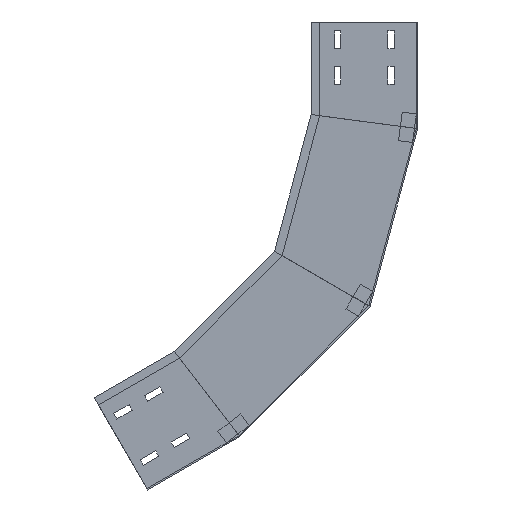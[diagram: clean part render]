
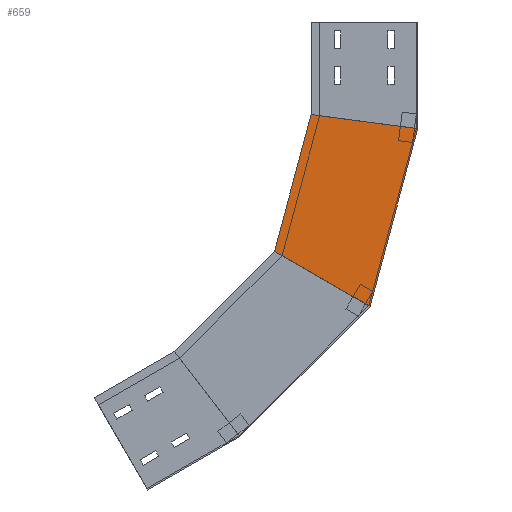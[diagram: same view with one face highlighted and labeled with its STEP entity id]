
A CAD part, left-side view. The second image highlights one B-rep face of the part: STEP entity #659.
In plain terms, the highlighted planar face has unit normal (-1, 0, 0) as drawn and (1, 0, 0) by its records, which use the part's own axes.
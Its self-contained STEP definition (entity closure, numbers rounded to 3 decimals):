
#4 = DIRECTION ( 'NONE',  ( 0., -0.609, -0.793 ) ) ;
#170 = VECTOR ( 'NONE', #489, 1000. ) ;
#178 = CARTESIAN_POINT ( 'NONE',  ( 0., 270.755, -556.495 ) ) ;
#193 = LINE ( 'NONE', #564, #2229 ) ;
#223 = DIRECTION ( 'NONE',  ( -1., 0., 0. ) ) ;
#230 = CARTESIAN_POINT ( 'NONE',  ( 0., 250.175, -583.315 ) ) ;
#304 = LINE ( 'NONE', #1681, #170 ) ;
#364 = EDGE_CURVE ( 'NONE', #1676, #2125, #1323, .T. ) ;
#470 = DIRECTION ( 'NONE',  ( 0., 0.707, -0.707 ) ) ;
#489 = DIRECTION ( 'NONE',  ( 0., -0.866, -0.5 ) ) ;
#564 = CARTESIAN_POINT ( 'NONE',  ( 0., 173.1, -294.109 ) ) ;
#573 = VERTEX_POINT ( 'NONE', #784 ) ;
#659 = ADVANCED_FACE ( 'NONE', ( #2120 ), #1276, .F. ) ;
#737 = CARTESIAN_POINT ( 'NONE',  ( 0., 67.034, -400.175 ) ) ;
#784 = CARTESIAN_POINT ( 'NONE',  ( 0., 201.52, -322.529 ) ) ;
#933 = EDGE_LOOP ( 'NONE', ( #1091, #1077, #2093, #1105 ) ) ;
#1049 = CARTESIAN_POINT ( 'NONE',  ( 0., 342.277, -463.286 ) ) ;
#1077 = ORIENTED_EDGE ( 'NONE', *, *, #1568, .T. ) ;
#1091 = ORIENTED_EDGE ( 'NONE', *, *, #2160, .F. ) ;
#1105 = ORIENTED_EDGE ( 'NONE', *, *, #1716, .F. ) ;
#1166 = VECTOR ( 'NONE', #470, 1000. ) ;
#1174 = VERTEX_POINT ( 'NONE', #1049 ) ;
#1265 = DIRECTION ( 'NONE',  ( 0., 0., 1. ) ) ;
#1276 = PLANE ( 'NONE',  #1520 ) ;
#1323 = LINE ( 'NONE', #2180, #1166 ) ;
#1381 = VECTOR ( 'NONE', #4, 1000. ) ;
#1520 = AXIS2_PLACEMENT_3D ( 'NONE', #737, #223, #1265 ) ;
#1548 = DIRECTION ( 'NONE',  ( 0., 0.707, -0.707 ) ) ;
#1568 = EDGE_CURVE ( 'NONE', #573, #1676, #304, .T. ) ;
#1676 = VERTEX_POINT ( 'NONE', #2063 ) ;
#1681 = CARTESIAN_POINT ( 'NONE',  ( 0., 125.087, -366.658 ) ) ;
#1708 = LINE ( 'NONE', #178, #1381 ) ;
#1716 = EDGE_CURVE ( 'NONE', #1174, #2125, #1708, .T. ) ;
#2063 = CARTESIAN_POINT ( 'NONE',  ( 0., 67.034, -400.175 ) ) ;
#2093 = ORIENTED_EDGE ( 'NONE', *, *, #364, .T. ) ;
#2120 = FACE_OUTER_BOUND ( 'NONE', #933, .T. ) ;
#2125 = VERTEX_POINT ( 'NONE', #230 ) ;
#2160 = EDGE_CURVE ( 'NONE', #573, #1174, #193, .T. ) ;
#2180 = CARTESIAN_POINT ( 'NONE',  ( 0., 67.034, -400.175 ) ) ;
#2229 = VECTOR ( 'NONE', #1548, 1000. ) ;
